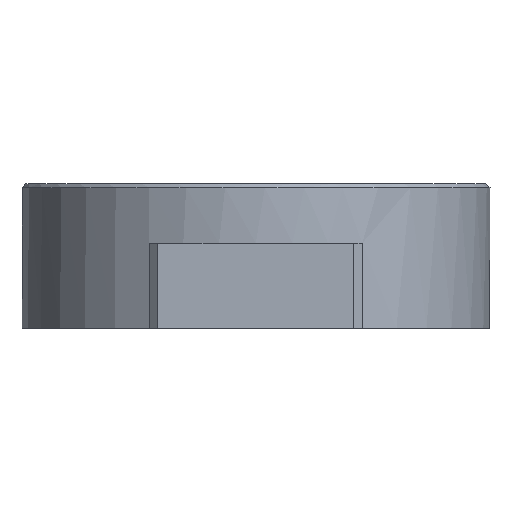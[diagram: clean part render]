
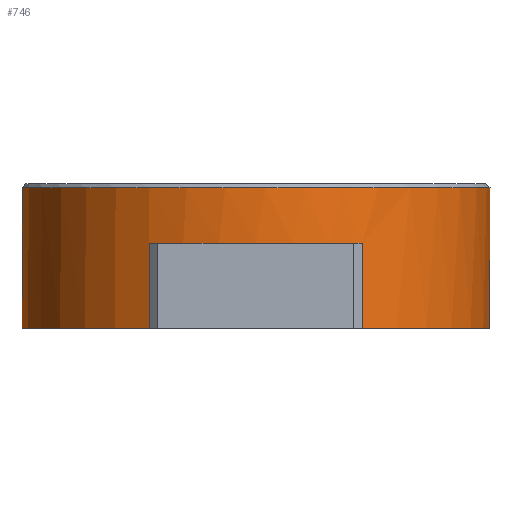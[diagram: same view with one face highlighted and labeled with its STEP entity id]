
A CAD part, front view. The second image highlights one B-rep face of the part: STEP entity #746.
In plain terms, the highlighted cylindrical face has radius 55 mm (diameter 110 mm), a full revolution.
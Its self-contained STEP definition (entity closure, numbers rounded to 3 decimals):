
#549=CYLINDRICAL_SURFACE('',#1908,55.);
#582=FACE_BOUND('',#949,.T.);
#583=FACE_BOUND('',#950,.T.);
#666=CIRCLE('',#1902,55.);
#667=CIRCLE('',#1904,55.);
#669=CIRCLE('',#1907,55.);
#746=ADVANCED_FACE('',(#582,#583),#549,.T.);
#949=EDGE_LOOP('',(#1108));
#950=EDGE_LOOP('',(#1109,#1110,#1111,#1112));
#1108=ORIENTED_EDGE('',*,*,#1566,.T.);
#1109=ORIENTED_EDGE('',*,*,#1564,.T.);
#1110=ORIENTED_EDGE('',*,*,#1548,.F.);
#1111=ORIENTED_EDGE('',*,*,#1560,.F.);
#1112=ORIENTED_EDGE('',*,*,#1556,.T.);
#1419=VERTEX_POINT('',#2503);
#1422=VERTEX_POINT('',#2508);
#1428=VERTEX_POINT('',#2522);
#1430=VERTEX_POINT('',#2526);
#1434=VERTEX_POINT('',#2545);
#1548=EDGE_CURVE('',#1422,#1419,#1718,.T.);
#1556=EDGE_CURVE('',#1428,#1430,#1726,.T.);
#1560=EDGE_CURVE('',#1428,#1422,#666,.T.);
#1564=EDGE_CURVE('',#1430,#1419,#667,.T.);
#1566=EDGE_CURVE('',#1434,#1434,#669,.T.);
#1718=LINE('',#2509,#1808);
#1726=LINE('',#2527,#1816);
#1808=VECTOR('',#2072,1.);
#1816=VECTOR('',#2084,1.);
#1902=AXIS2_PLACEMENT_3D('',#2535,#2094,#2095);
#1904=AXIS2_PLACEMENT_3D('',#2540,#2101,#2102);
#1907=AXIS2_PLACEMENT_3D('',#2544,#2107,#2108);
#1908=AXIS2_PLACEMENT_3D('',#2546,#2109,#2110);
#2072=DIRECTION('',(0.,0.,-1.));
#2084=DIRECTION('',(0.,0.,-1.));
#2094=DIRECTION('',(0.,0.,-1.));
#2095=DIRECTION('',(1.,0.,0.));
#2101=DIRECTION('',(0.,0.,1.));
#2102=DIRECTION('',(1.,0.,0.));
#2107=DIRECTION('',(0.,0.,-1.));
#2108=DIRECTION('',(1.,0.,0.));
#2109=DIRECTION('',(0.,0.,-1.));
#2110=DIRECTION('',(-1.,0.,0.));
#2503=CARTESIAN_POINT('',(-25.,-48.99,0.));
#2508=CARTESIAN_POINT('',(-25.,-48.99,20.));
#2509=CARTESIAN_POINT('',(-25.,-48.99,20.));
#2522=CARTESIAN_POINT('',(25.,-48.99,20.));
#2526=CARTESIAN_POINT('',(25.,-48.99,0.));
#2527=CARTESIAN_POINT('',(25.,-48.99,20.));
#2535=CARTESIAN_POINT('',(0.,0.,20.));
#2540=CARTESIAN_POINT('',(0.,0.,0.));
#2544=CARTESIAN_POINT('',(0.,0.,33.));
#2545=CARTESIAN_POINT('',(55.,0.,33.));
#2546=CARTESIAN_POINT('',(0.,0.,34.));
